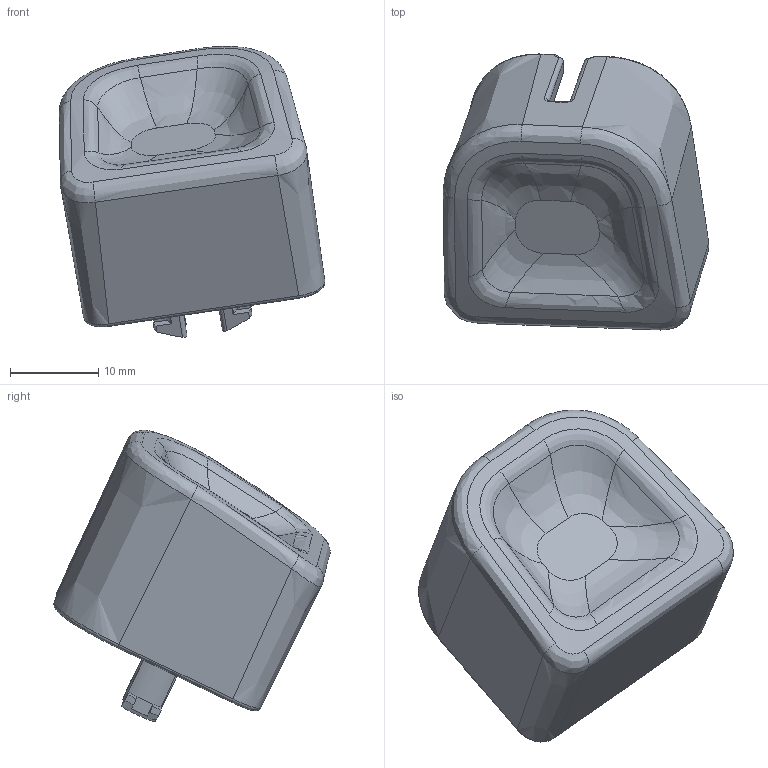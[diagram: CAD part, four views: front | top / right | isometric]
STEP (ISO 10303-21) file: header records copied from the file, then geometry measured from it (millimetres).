
FILE_DESCRIPTION(('CATIA V5 STEP Exchange','CAx-IF Rec.Pracs.--- Model Styling and Organization---1.4--- 2014-01-23'),'2;1');
FILE_NAME('C:\Users\luhaitao\Desktop\塑料件平台项目\样件清单2\15.stp','2025-06-13T03:37:45+00:00',('none'),('none'),'CATIA Version 5-6 Release 2017','CATIA V5 STEP AP214','none');
FILE_SCHEMA(('AUTOMOTIVE_DESIGN { 1 0 10303 214 1 1 1 1 }'));
Length unit declared in the file: millimetre
Products named in the file (1): 15
Bounding box: 30.08 x 31.27 x 32.98 mm (x, y, z)
Volume: 6125 mm3; surface area: 5658.3 mm2
Topology: 1 solids, 1 shells, 258 faces, 716 edges, 449 vertices
Faces by surface type: bspline 143, plane 48, cylinder 41, cone 12, sphere 12, torus 2
Entity records: 15757 total; most frequent: CARTESIAN_POINT 10934, ORIENTED_EDGE 1408, EDGE_CURVE 704, VERTEX_POINT 449, B_SPLINE_CURVE_WITH_KNOTS 412, DIRECTION 350, EDGE_LOOP 259, ADVANCED_FACE 258
